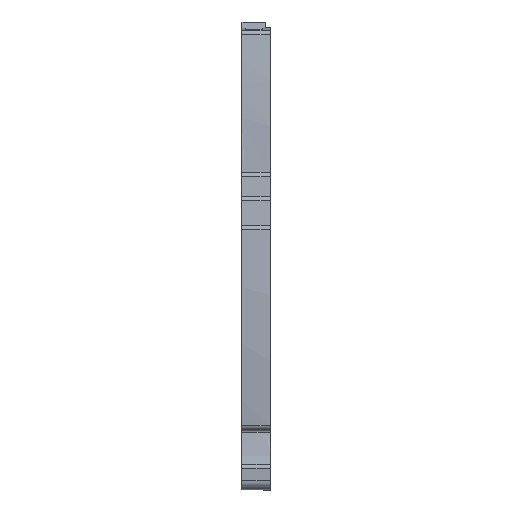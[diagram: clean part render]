
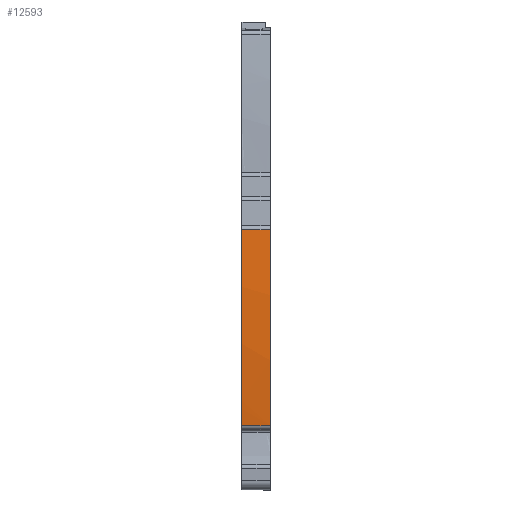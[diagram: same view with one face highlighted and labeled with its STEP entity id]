
A CAD part, front view. The second image highlights one B-rep face of the part: STEP entity #12593.
In plain terms, the highlighted cylindrical face has radius 202 mm (diameter 404 mm), a partial arc.
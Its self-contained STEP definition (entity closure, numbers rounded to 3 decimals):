
#2723=AXIS2_PLACEMENT_3D('Circle Axis2P3D',#2721,#2722,$) ;
#2730=AXIS2_PLACEMENT_3D('Circle Axis2P3D',#2728,#2729,$) ;
#2737=AXIS2_PLACEMENT_3D('Circle Axis2P3D',#2735,#2736,$) ;
#3970=AXIS2_PLACEMENT_3D('Circle Axis2P3D',#3968,#3969,$) ;
#12578=AXIS2_PLACEMENT_3D('Cylinder Axis2P3D',#12575,#12576,#12577) ;
#2718=CARTESIAN_POINT('Vertex',(0.,1.531,13.327)) ;
#2721=CARTESIAN_POINT('Axis2P3D Location',(0.,201.978,38.147)) ;
#2725=CARTESIAN_POINT('Vertex',(0.,1.516,13.45)) ;
#2728=CARTESIAN_POINT('Axis2P3D Location',(0.,202.,38.15)) ;
#2732=CARTESIAN_POINT('Vertex',(0.,0.952,18.566)) ;
#2735=CARTESIAN_POINT('Axis2P3D Location',(0.,202.,38.15)) ;
#2739=CARTESIAN_POINT('Vertex',(0.,0.609,53.828)) ;
#3965=CARTESIAN_POINT('Vertex',(5.95,0.609,53.828)) ;
#3968=CARTESIAN_POINT('Axis2P3D Location',(5.95,202.,38.15)) ;
#3972=CARTESIAN_POINT('Vertex',(5.95,1.531,13.327)) ;
#12562=CARTESIAN_POINT('Line Origine',(1.94,1.531,13.327)) ;
#12575=CARTESIAN_POINT('Axis2P3D Location',(3.16,202.,38.15)) ;
#12580=CARTESIAN_POINT('Line Origine',(3.16,0.609,53.828)) ;
#2722=DIRECTION('Axis2P3D Direction',(1.,0.,0.)) ;
#2729=DIRECTION('Axis2P3D Direction',(1.,0.,0.)) ;
#2736=DIRECTION('Axis2P3D Direction',(1.,0.,0.)) ;
#3969=DIRECTION('Axis2P3D Direction',(1.,0.,0.)) ;
#12563=DIRECTION('Vector Direction',(1.,0.,0.)) ;
#12576=DIRECTION('Axis2P3D Direction',(-1.,0.,0.)) ;
#12577=DIRECTION('Axis2P3D XDirection',(0.,-0.992,-0.123)) ;
#12581=DIRECTION('Vector Direction',(-1.,0.,0.)) ;
#12564=VECTOR('Line Direction',#12563,1.) ;
#12582=VECTOR('Line Direction',#12581,1.) ;
#12586=ORIENTED_EDGE('',*,*,#2741,.F.) ;
#12587=ORIENTED_EDGE('',*,*,#2734,.F.) ;
#12588=ORIENTED_EDGE('',*,*,#2727,.F.) ;
#12589=ORIENTED_EDGE('',*,*,#12566,.F.) ;
#12590=ORIENTED_EDGE('',*,*,#3974,.F.) ;
#12591=ORIENTED_EDGE('',*,*,#12584,.T.) ;
#12593=ADVANCED_FACE('KLEMME',(#12592),#12579,.T.) ;
#2724=CIRCLE('generated circle',#2723,201.978) ;
#2731=CIRCLE('generated circle',#2730,202.) ;
#2738=CIRCLE('generated circle',#2737,202.) ;
#3971=CIRCLE('generated circle',#3970,202.) ;
#12579=CYLINDRICAL_SURFACE('generated cylinder',#12578,202.) ;
#2727=EDGE_CURVE('',#2719,#2726,#2724,.F.) ;
#2734=EDGE_CURVE('',#2726,#2733,#2731,.F.) ;
#2741=EDGE_CURVE('',#2733,#2740,#2738,.F.) ;
#3974=EDGE_CURVE('',#3966,#3973,#3971,.T.) ;
#12566=EDGE_CURVE('',#3973,#2719,#12565,.F.) ;
#12584=EDGE_CURVE('',#3966,#2740,#12583,.T.) ;
#12585=EDGE_LOOP('',(#12586,#12587,#12588,#12589,#12590,#12591)) ;
#12592=FACE_OUTER_BOUND('',#12585,.T.) ;
#12565=LINE('Line',#12562,#12564) ;
#12583=LINE('Line',#12580,#12582) ;
#2719=VERTEX_POINT('',#2718) ;
#2726=VERTEX_POINT('',#2725) ;
#2733=VERTEX_POINT('',#2732) ;
#2740=VERTEX_POINT('',#2739) ;
#3966=VERTEX_POINT('',#3965) ;
#3973=VERTEX_POINT('',#3972) ;
